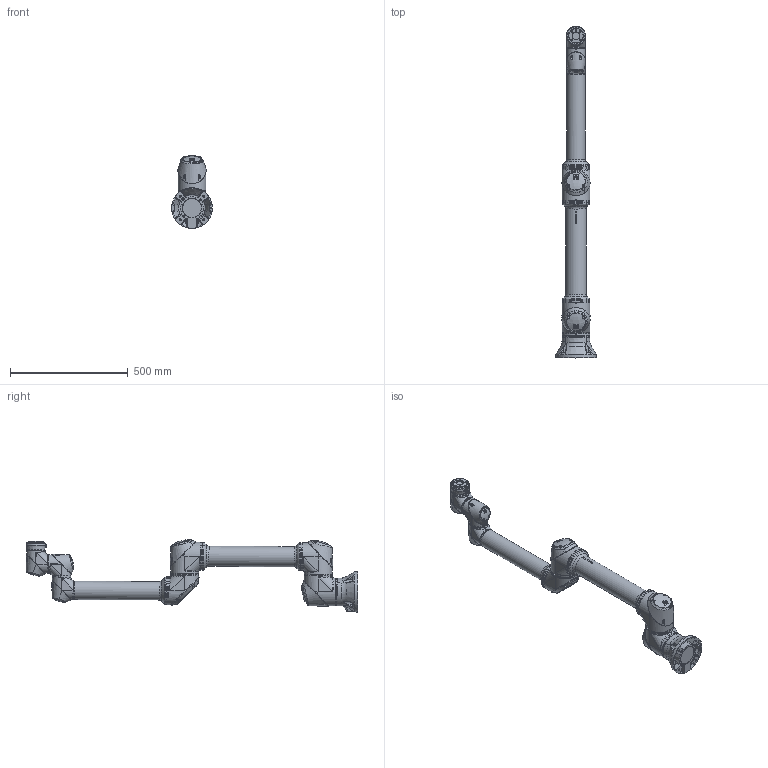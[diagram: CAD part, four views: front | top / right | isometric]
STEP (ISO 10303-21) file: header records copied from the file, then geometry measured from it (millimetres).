
FILE_DESCRIPTION(/* description */ (''),/* implementation_level */ '2;1');
FILE_NAME(/* name */ 'RB3-1200E.stp',/* time_stamp */ '2023-04-06T11:19:28+09:00',/* author */ ('ajm08'),/* organization */ (''),/* preprocessor_version */ 'ST-DEVELOPER v19.2',/* originating_system */ 'Autodesk Inventor 2023',/* authorisation */ '');
FILE_SCHEMA (('AUTOMOTIVE_DESIGN { 1 0 10303 214 3 1 1 }'));
Length unit declared in the file: millimetre
Products named in the file (8): RB3-1200E; RB3-1200E_BASE; RB3-1200E_LINK1; RB3-1200E_LINK2; RB3-1200E_LINK3; RB3-1200E_LINK4; RB3-1200E_LINK5; RB3-1200E_LINK6
Assembly tree (7 placements, depth 2):
  RB3-1200E
    RB3-1200E_BASE
    RB3-1200E_LINK1
    RB3-1200E_LINK2
    RB3-1200E_LINK3
    RB3-1200E_LINK4
    RB3-1200E_LINK5
    RB3-1200E_LINK6
Bounding box: 172.83 x 1410.12 x 309.05 mm (x, y, z)
Volume: 14641709 mm3; surface area: 1039074.5 mm2
Topology: 29 solids, 32 shells, 1985 faces, 5023 edges, 3202 vertices
Faces by surface type: bspline 1060, plane 590, cylinder 195, cone 90, torus 30, sphere 20
Full cylindrical faces by diameter (mm): 1.5 x12, 4 x1, 4.5 x16, 5 x1, 5.1 x12, 6 x5, 6.647 x2, 8.5 x4, 10 x2, 11.459 x2, 14 x2, 14.5 x1, 16 x1, 31.53 x1, 62.95 x1, 70 x4, 71.5 x4, 72.6 x3, 78 x10, 86 x1, 88.5 x3, 110 x6, 111.5 x6, 112.6 x4, 118 x23
Entity records: 262658 total; most frequent: CARTESIAN_POINT 219491, ORIENTED_EDGE 9904, DIRECTION 6156, EDGE_CURVE 4952, VERTEX_POINT 3202, AXIS2_PLACEMENT_3D 2369, EDGE_LOOP 2196, B_SPLINE_CURVE_WITH_KNOTS 2043
